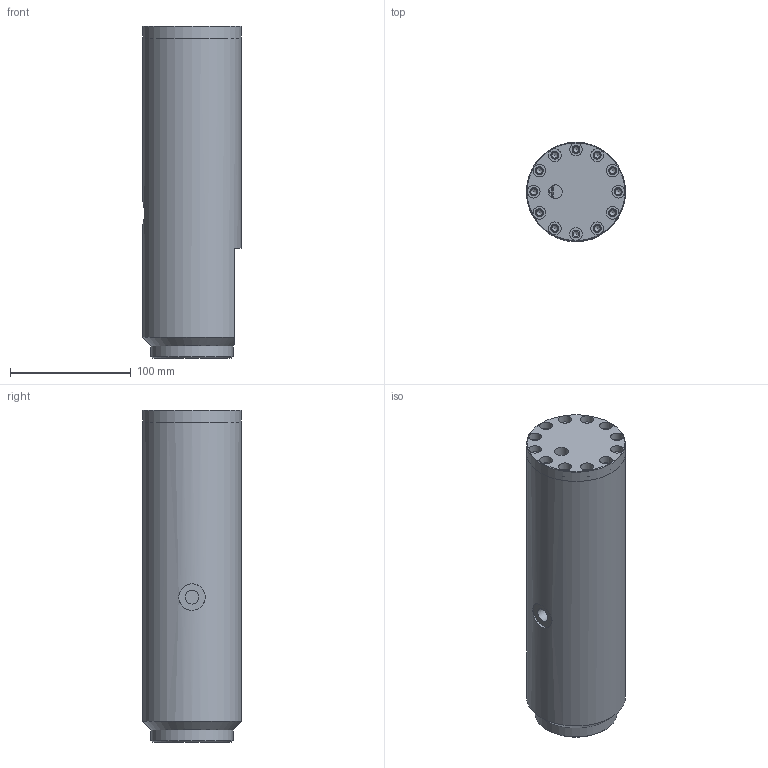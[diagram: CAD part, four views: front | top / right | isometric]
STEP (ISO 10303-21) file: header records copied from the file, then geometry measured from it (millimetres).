
FILE_DESCRIPTION(/* description */ (''),/* implementation_level */ '2;1');
FILE_NAME(/* name */ 'N:\CAD\ARCHIV\1450\1450.17.00\in 3D Inventor\1450.17.00.stp',/* time_stamp */ '2022-01-25T13:31:45+01:00',/* author */ ('sschwock'),/* organization */ (''),/* preprocessor_version */ 'ST-DEVELOPER v18.1',/* originating_system */ 'Autodesk Inventor 2020',/* authorisation */ '');
FILE_SCHEMA (('AUTOMOTIVE_DESIGN { 1 0 10303 214 3 1 1 }'));
Length unit declared in the file: millimetre
Products named in the file (4): 1450.17.00; Gehäuse; Hochdruckdeckel; Niederdruckdeckel
Assembly tree (3 placements, depth 2):
  1450.17.00
    Gehäuse
    Hochdruckdeckel
    Niederdruckdeckel
Bounding box: 82 x 82 x 275 mm (x, y, z)
Volume: 892293.7 mm3; surface area: 152472 mm2
Topology: 3 solids, 3 shells, 165 faces, 469 edges, 341 vertices
Faces by surface type: cylinder 89, plane 40, cone 36
Full cylindrical faces by diameter (mm): 3 x1, 4.917 x23, 6 x1, 6.6 x23, 6.647 x2, 10.5 x12, 11 x11, 11.445 x3, 22 x1, 35.5 x1, 40 x3, 55.5 x1, 60 x3, 62 x1, 68 x1, 82 x2
Entity records: 5860 total; most frequent: DIRECTION 1088, CARTESIAN_POINT 1031, ORIENTED_EDGE 886, AXIS2_PLACEMENT_3D 480, EDGE_CURVE 443, VERTEX_POINT 341, CIRCLE 308, EDGE_LOOP 276
